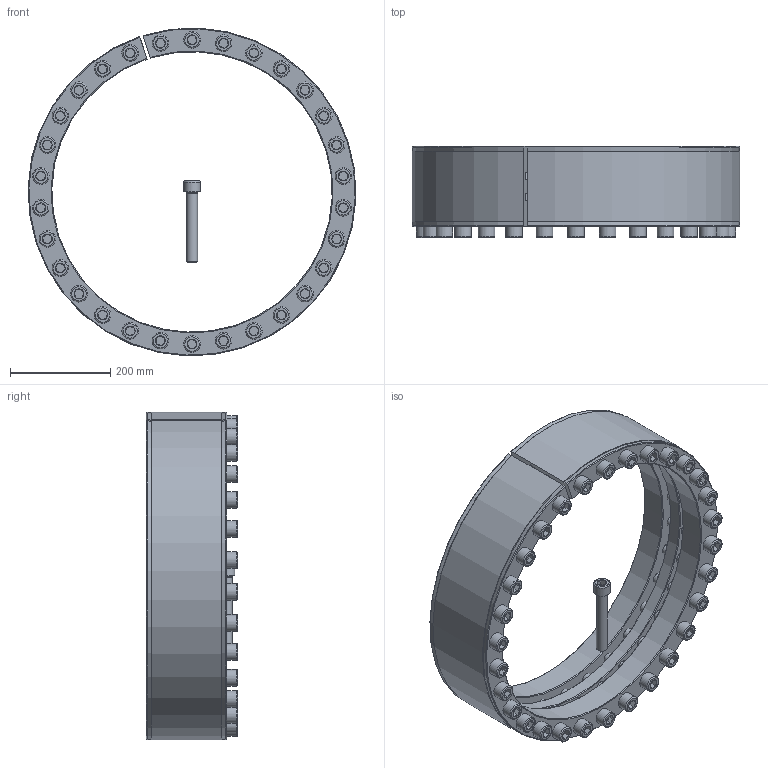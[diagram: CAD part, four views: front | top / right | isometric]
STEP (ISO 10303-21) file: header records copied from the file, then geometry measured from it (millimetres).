
FILE_DESCRIPTION( ( 'Unknown' ), '1' );
FILE_NAME( 'C:/Users/Frank/Eigene Daten/CAD/Solid Edge/KBK Karpstein/KBS Layout Baureihen/KBS 18/KBS 18 - 560 x 655.stp', 'Unknown', ( 'Unknown' ), ( 'Unknown' ), 'XStep 1.0', 'Unknown', ' ' );
FILE_SCHEMA( ( 'automotive_design' ) );
Length unit declared in the file: millimetre
Products named in the file (3): Assem1; ISO EN DIN 4762 M22x140; KBS 18 - 560 x 655
Bounding box: 654.62 x 182 x 654.49 mm (x, y, z)
Volume: 23316959.1 mm3; surface area: 2967513.6 mm2
Topology: 33 solids, 33 shells, 1007 faces, 2089 edges, 1272 vertices
Faces by surface type: plane 392, cylinder 312, cone 241, torus 62
Full cylindrical faces by diameter (mm): 18 x31, 19.294 x60, 22 x62, 24 x120, 33 x31
Entity records: 5670 total; most frequent: CARTESIAN_POINT 853, DIRECTION 824, ORIENTED_EDGE 574, EDGE_LOOP 422, AXIS2_PLACEMENT_3D 394, EDGE_CURVE 287, VERTEX_POINT 251, FACE_OUTER_BOUND 237
